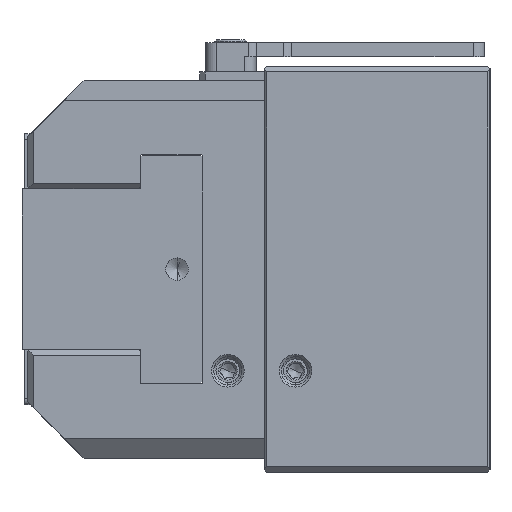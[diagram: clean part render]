
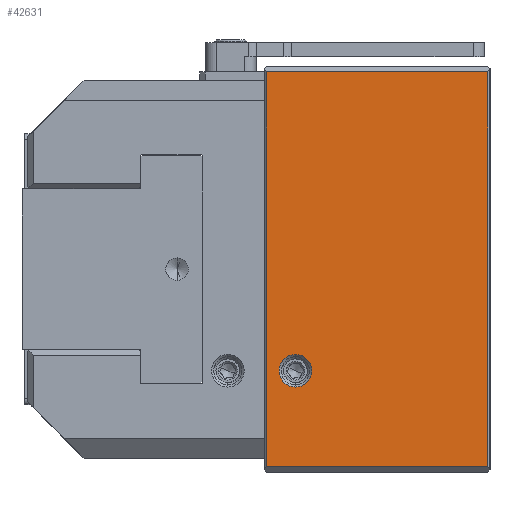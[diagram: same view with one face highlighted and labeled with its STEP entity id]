
A CAD part, left-side view. The second image highlights one B-rep face of the part: STEP entity #42631.
In plain terms, the highlighted planar face has unit normal (-1, 0, 0).
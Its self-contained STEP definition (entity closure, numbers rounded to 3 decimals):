
#2215 = ORIENTED_EDGE ( 'NONE', *, *, #51387, .F. ) ;
#2641 = DIRECTION ( 'NONE',  ( 0., 0., -1. ) ) ;
#3301 = DIRECTION ( 'NONE',  ( 0., 0., 1. ) ) ;
#3841 = VECTOR ( 'NONE', #2641, 1000. ) ;
#3863 = DIRECTION ( 'NONE',  ( -1., 0., 0. ) ) ;
#8331 = EDGE_CURVE ( 'NONE', #23429, #58033, #52804, .T. ) ;
#10941 = CARTESIAN_POINT ( 'NONE',  ( -60., -39.6, -35. ) ) ;
#11958 = CARTESIAN_POINT ( 'NONE',  ( -60., -0.4, -35. ) ) ;
#12093 = LINE ( 'NONE', #57424, #14261 ) ;
#12606 = VERTEX_POINT ( 'NONE', #38723 ) ;
#14025 = DIRECTION ( 'NONE',  ( -1., 0., 0. ) ) ;
#14261 = VECTOR ( 'NONE', #48165, 1000. ) ;
#17279 = CARTESIAN_POINT ( 'NONE',  ( -60., -40., -35. ) ) ;
#17892 = DIRECTION ( 'NONE',  ( 0., 1., 0. ) ) ;
#23429 = VERTEX_POINT ( 'NONE', #30650 ) ;
#23592 = LINE ( 'NONE', #42076, #45184 ) ;
#23788 = CARTESIAN_POINT ( 'NONE',  ( -60., -39.6, 35. ) ) ;
#25902 = CARTESIAN_POINT ( 'NONE',  ( -60., -40., 35. ) ) ;
#26027 = AXIS2_PLACEMENT_3D ( 'NONE', #54874, #14025, #27092 ) ;
#26491 = FACE_OUTER_BOUND ( 'NONE', #39728, .T. ) ;
#27092 = DIRECTION ( 'NONE',  ( 0., 0., 1. ) ) ;
#28687 = AXIS2_PLACEMENT_3D ( 'NONE', #51264, #41730, #41138 ) ;
#28733 = ORIENTED_EDGE ( 'NONE', *, *, #43742, .F. ) ;
#28760 = VERTEX_POINT ( 'NONE', #23788 ) ;
#29615 = CARTESIAN_POINT ( 'NONE',  ( -60., -0.4, -35. ) ) ;
#30650 = CARTESIAN_POINT ( 'NONE',  ( -60., -0.4, 35. ) ) ;
#30823 = VECTOR ( 'NONE', #17892, 1000. ) ;
#32486 = EDGE_LOOP ( 'NONE', ( #28733, #2215 ) ) ;
#33850 = ORIENTED_EDGE ( 'NONE', *, *, #8331, .T. ) ;
#36137 = ORIENTED_EDGE ( 'NONE', *, *, #54703, .T. ) ;
#38723 = CARTESIAN_POINT ( 'NONE',  ( -60., -5.5, -20.9 ) ) ;
#39319 = ORIENTED_EDGE ( 'NONE', *, *, #52324, .T. ) ;
#39576 = VERTEX_POINT ( 'NONE', #53143 ) ;
#39728 = EDGE_LOOP ( 'NONE', ( #36137, #33850, #54868, #39319 ) ) ;
#41131 = CIRCLE ( 'NONE', #28687, 2.9 ) ;
#41138 = DIRECTION ( 'NONE',  ( 0., 0., 1. ) ) ;
#41730 = DIRECTION ( 'NONE',  ( -1., 0., 0. ) ) ;
#41798 = DIRECTION ( 'NONE',  ( 0., 0., 1. ) ) ;
#42076 = CARTESIAN_POINT ( 'NONE',  ( -60., -39.6, 35. ) ) ;
#42631 = ADVANCED_FACE ( 'NONE', ( #45001, #26491 ), #44701, .T. ) ;
#43742 = EDGE_CURVE ( 'NONE', #39576, #12606, #41131, .T. ) ;
#44701 = PLANE ( 'NONE',  #58476 ) ;
#45001 = FACE_BOUND ( 'NONE', #32486, .T. ) ;
#45184 = VECTOR ( 'NONE', #41798, 1000. ) ;
#48165 = DIRECTION ( 'NONE',  ( 0., 1., 0. ) ) ;
#51264 = CARTESIAN_POINT ( 'NONE',  ( -60., -5.5, -18. ) ) ;
#51318 = EDGE_CURVE ( 'NONE', #53280, #58033, #58166, .T. ) ;
#51387 = EDGE_CURVE ( 'NONE', #12606, #39576, #51790, .T. ) ;
#51790 = CIRCLE ( 'NONE', #26027, 2.9 ) ;
#52324 = EDGE_CURVE ( 'NONE', #53280, #28760, #23592, .T. ) ;
#52804 = LINE ( 'NONE', #11958, #3841 ) ;
#53143 = CARTESIAN_POINT ( 'NONE',  ( -60., -5.5, -15.1 ) ) ;
#53280 = VERTEX_POINT ( 'NONE', #10941 ) ;
#54703 = EDGE_CURVE ( 'NONE', #28760, #23429, #12093, .T. ) ;
#54868 = ORIENTED_EDGE ( 'NONE', *, *, #51318, .F. ) ;
#54874 = CARTESIAN_POINT ( 'NONE',  ( -60., -5.5, -18. ) ) ;
#57424 = CARTESIAN_POINT ( 'NONE',  ( -60., -40., 35. ) ) ;
#58033 = VERTEX_POINT ( 'NONE', #29615 ) ;
#58166 = LINE ( 'NONE', #17279, #30823 ) ;
#58476 = AXIS2_PLACEMENT_3D ( 'NONE', #25902, #3863, #3301 ) ;
